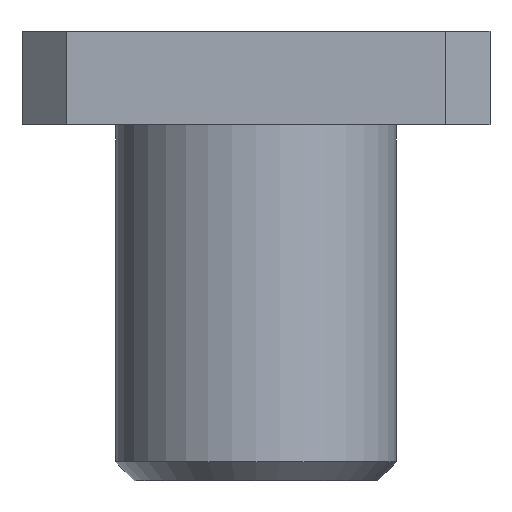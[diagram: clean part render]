
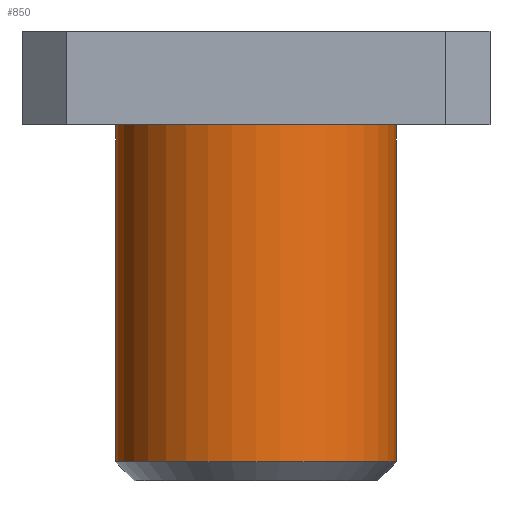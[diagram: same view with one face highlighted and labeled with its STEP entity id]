
A CAD part, front view. The second image highlights one B-rep face of the part: STEP entity #850.
In plain terms, the highlighted cylindrical face has radius 7.5 mm (diameter 15 mm), a partial arc.
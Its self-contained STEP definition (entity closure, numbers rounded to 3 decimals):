
#169 = CARTESIAN_POINT ( 'NONE',  ( 0., 0., 19. ) ) ;
#202 = VERTEX_POINT ( 'NONE', #1054 ) ;
#204 = DIRECTION ( 'NONE',  ( 1., 0., 0. ) ) ;
#231 = CARTESIAN_POINT ( 'NONE',  ( 0., 0., 24. ) ) ;
#233 = AXIS2_PLACEMENT_3D ( 'NONE', #169, #563, #929 ) ;
#237 = DIRECTION ( 'NONE',  ( -1., 0., 0. ) ) ;
#276 = DIRECTION ( 'NONE',  ( 0., 0., -1. ) ) ;
#365 = EDGE_LOOP ( 'NONE', ( #679, #647, #667, #827 ) ) ;
#376 = CARTESIAN_POINT ( 'NONE',  ( 7.5, 0., 1. ) ) ;
#380 = VECTOR ( 'NONE', #1184, 1000. ) ;
#465 = LINE ( 'NONE', #926, #801 ) ;
#488 = EDGE_CURVE ( 'NONE', #202, #1112, #914, .T. ) ;
#525 = LINE ( 'NONE', #830, #380 ) ;
#549 = VERTEX_POINT ( 'NONE', #1078 ) ;
#563 = DIRECTION ( 'NONE',  ( 0., 0., -1. ) ) ;
#579 = CARTESIAN_POINT ( 'NONE',  ( 0., 0., 1. ) ) ;
#647 = ORIENTED_EDGE ( 'NONE', *, *, #960, .T. ) ;
#667 = ORIENTED_EDGE ( 'NONE', *, *, #906, .T. ) ;
#679 = ORIENTED_EDGE ( 'NONE', *, *, #709, .F. ) ;
#709 = EDGE_CURVE ( 'NONE', #1002, #1112, #465, .T. ) ;
#781 = AXIS2_PLACEMENT_3D ( 'NONE', #231, #891, #237 ) ;
#783 = CIRCLE ( 'NONE', #233, 7.5 ) ;
#801 = VECTOR ( 'NONE', #276, 1000. ) ;
#827 = ORIENTED_EDGE ( 'NONE', *, *, #488, .T. ) ;
#830 = CARTESIAN_POINT ( 'NONE',  ( -7.5, 0., 24. ) ) ;
#850 = ADVANCED_FACE ( 'NONE', ( #1074 ), #1065, .T. ) ;
#891 = DIRECTION ( 'NONE',  ( 0., 0., -1. ) ) ;
#906 = EDGE_CURVE ( 'NONE', #549, #202, #525, .T. ) ;
#914 = CIRCLE ( 'NONE', #1068, 7.5 ) ;
#926 = CARTESIAN_POINT ( 'NONE',  ( 7.5, 0., 24. ) ) ;
#929 = DIRECTION ( 'NONE',  ( -1., 0., 0. ) ) ;
#942 = DIRECTION ( 'NONE',  ( 0., 0., 1. ) ) ;
#960 = EDGE_CURVE ( 'NONE', #1002, #549, #783, .T. ) ;
#1002 = VERTEX_POINT ( 'NONE', #1027 ) ;
#1027 = CARTESIAN_POINT ( 'NONE',  ( 7.5, 0., 19. ) ) ;
#1054 = CARTESIAN_POINT ( 'NONE',  ( -7.5, 0., 1. ) ) ;
#1065 = CYLINDRICAL_SURFACE ( 'NONE', #781, 7.5 ) ;
#1068 = AXIS2_PLACEMENT_3D ( 'NONE', #579, #942, #204 ) ;
#1074 = FACE_OUTER_BOUND ( 'NONE', #365, .T. ) ;
#1078 = CARTESIAN_POINT ( 'NONE',  ( -7.5, 0., 19. ) ) ;
#1112 = VERTEX_POINT ( 'NONE', #376 ) ;
#1184 = DIRECTION ( 'NONE',  ( 0., 0., -1. ) ) ;
